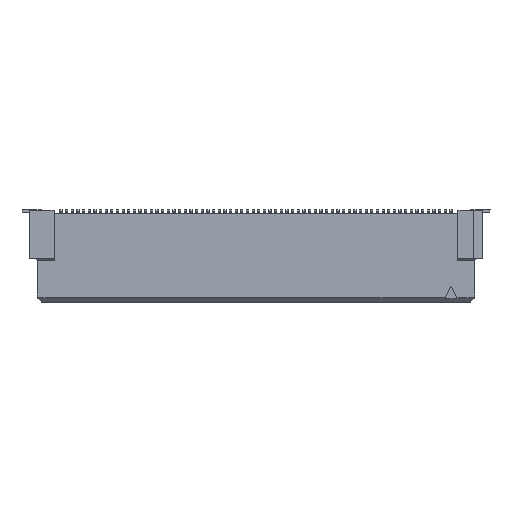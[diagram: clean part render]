
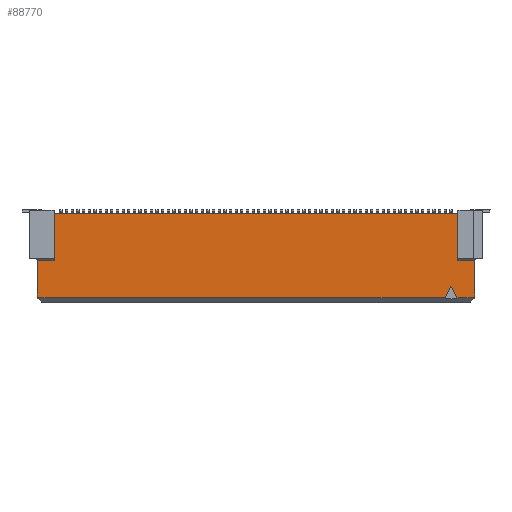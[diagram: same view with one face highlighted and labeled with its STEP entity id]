
A CAD part, front view. The second image highlights one B-rep face of the part: STEP entity #88770.
In plain terms, the highlighted planar face has unit normal (0, -1, 0).
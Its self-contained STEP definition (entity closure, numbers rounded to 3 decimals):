
#4080=CARTESIAN_POINT('',(23.522,1.44,
10.32));
#4090=VERTEX_POINT('',#4080);
#4880=CARTESIAN_POINT('',(23.522,1.44,
6.19));
#4890=VERTEX_POINT('',#4880);
#4920=CARTESIAN_POINT('',(23.522,1.44,
8.755));
#4930=DIRECTION('',(0.,0.,
1.));
#4940=VECTOR('',#4930,1.);
#4950=LINE('',#4920,#4940);
#4960=EDGE_CURVE('',#4890,#4090,#4950,.T.);
#8280=CARTESIAN_POINT('',(25.022,1.44,
6.19));
#8290=VERTEX_POINT('',#8280);
#8320=CARTESIAN_POINT('',(24.372,1.44,
6.19));
#8330=DIRECTION('',(-1.,0.,0.));
#8340=VECTOR('',#8330,1.);
#8350=LINE('',#8320,#8340);
#8360=EDGE_CURVE('',#8290,#4890,#8350,.T.);
#17390=CARTESIAN_POINT('',(25.022,1.44,
3.06));
#17400=VERTEX_POINT('',#17390);
#17430=CARTESIAN_POINT('',(25.022,1.44,
10.39));
#17440=DIRECTION('',(0.,0.,
1.));
#17450=VECTOR('',#17440,1.);
#17460=LINE('',#17430,#17450);
#17470=EDGE_CURVE('',#17400,#8290,#17460,.T.);
#24320=CARTESIAN_POINT('',(24.974,1.44,
2.91));
#24330=VERTEX_POINT('',#24320);
#24360=CARTESIAN_POINT('',(27.371,1.44,
10.39));
#24370=DIRECTION('',(-0.305,0.,
-0.952));
#24380=VECTOR('',#24370,1.);
#24390=LINE('',#24360,#24380);
#24400=EDGE_CURVE('',#17400,#24330,#24390,.T.);
#26620=CARTESIAN_POINT('',(22.912,1.44,
3.91));
#26630=VERTEX_POINT('',#26620);
#26660=CARTESIAN_POINT('',(20.49,1.44,
8.755));
#26670=DIRECTION('',(-0.447,0.,
0.894));
#26680=VECTOR('',#26670,1.);
#26690=LINE('',#26660,#26680);
#26700=CARTESIAN_POINT('',(23.412,1.44,
2.91));
#26710=VERTEX_POINT('',#26700);
#26720=EDGE_CURVE('',#26710,#26630,#26690,.T.);
#87190=CARTESIAN_POINT('',(22.412,1.44,
2.91));
#87200=VERTEX_POINT('',#87190);
#87230=CARTESIAN_POINT('',(25.335,1.44,
8.755));
#87240=DIRECTION('',(-0.447,0.,
-0.894));
#87250=VECTOR('',#87240,1.);
#87260=LINE('',#87230,#87250);
#87270=EDGE_CURVE('',#26630,#87200,#87260,.T.);
#87320=CARTESIAN_POINT('',(2.172,1.44,
2.91));
#87330=DIRECTION('',(0.,1.,
0.));
#87340=DIRECTION('',(0.,0.,
1.));
#87350=AXIS2_PLACEMENT_3D('',#87320,#87330,#87340);
#87360=PLANE('',#87350);
#87370=CARTESIAN_POINT('',(-8.848,1.44,
2.91));
#87380=DIRECTION('',(1.,0.,0.));
#87390=VECTOR('',#87380,1.);
#87400=LINE('',#87370,#87390);
#87410=CARTESIAN_POINT('',(-12.348,1.44,
2.91));
#87420=VERTEX_POINT('',#87410);
#87430=CARTESIAN_POINT('',(-2.338,1.44,
2.91));
#87440=VERTEX_POINT('',#87430);
#87450=EDGE_CURVE('',#87420,#87440,#87400,.T.);
#87460=ORIENTED_EDGE('',*,*,#87450,.T.);
#87470=CARTESIAN_POINT('',(-5.542,1.44,
2.91));
#87480=DIRECTION('',(1.,0.,0.));
#87490=VECTOR('',#87480,1.);
#87500=LINE('',#87470,#87490);
#87510=CARTESIAN_POINT('',(-13.649,1.44,
2.91));
#87520=VERTEX_POINT('',#87510);
#87530=EDGE_CURVE('',#87520,#87420,#87500,.T.);
#87540=ORIENTED_EDGE('',*,*,#87530,.T.);
#87550=CARTESIAN_POINT('',(-16.046,1.44,
10.39));
#87560=DIRECTION('',(0.305,0.,
-0.952));
#87570=VECTOR('',#87560,1.);
#87580=LINE('',#87550,#87570);
#87590=CARTESIAN_POINT('',(-13.698,1.44,
3.06));
#87600=VERTEX_POINT('',#87590);
#87610=EDGE_CURVE('',#87600,#87520,#87580,.T.);
#87620=ORIENTED_EDGE('',*,*,#87610,.T.);
#87630=CARTESIAN_POINT('',(-13.698,1.44,
10.39));
#87640=DIRECTION('',(0.,0.,
1.));
#87650=VECTOR('',#87640,1.);
#87660=LINE('',#87630,#87650);
#87670=CARTESIAN_POINT('',(-13.698,1.44,
6.19));
#87680=VERTEX_POINT('',#87670);
#87690=EDGE_CURVE('',#87600,#87680,#87660,.T.);
#87700=ORIENTED_EDGE('',*,*,#87690,.F.);
#87710=CARTESIAN_POINT('',(-13.048,1.44,
6.19));
#87720=DIRECTION('',(1.,0.,0.));
#87730=VECTOR('',#87720,1.);
#87740=LINE('',#87710,#87730);
#87750=CARTESIAN_POINT('',(-12.198,1.44,
6.19));
#87760=VERTEX_POINT('',#87750);
#87770=EDGE_CURVE('',#87680,#87760,#87740,.T.);
#87780=ORIENTED_EDGE('',*,*,#87770,.F.);
#87790=CARTESIAN_POINT('',(-12.198,1.44,
8.755));
#87800=DIRECTION('',(0.,0.,
1.));
#87810=VECTOR('',#87800,1.);
#87820=LINE('',#87790,#87810);
#87830=CARTESIAN_POINT('',(-12.198,1.44,
10.32));
#87840=VERTEX_POINT('',#87830);
#87850=EDGE_CURVE('',#87760,#87840,#87820,.T.);
#87860=ORIENTED_EDGE('',*,*,#87850,.F.);
#87870=CARTESIAN_POINT('',(-12.348,1.44,
10.32));
#87880=DIRECTION('',(1.,0.,0.));
#87890=VECTOR('',#87880,1.);
#87900=LINE('',#87870,#87890);
#87910=CARTESIAN_POINT('',(-11.838,1.44,
10.32));
#87920=VERTEX_POINT('',#87910);
#87930=EDGE_CURVE('',#87840,#87920,#87900,.T.);
#87940=ORIENTED_EDGE('',*,*,#87930,.F.);
#87950=CARTESIAN_POINT('',(-30.088,1.44,
10.32));
#87960=DIRECTION('',(1.,0.,0.));
#87970=VECTOR('',#87960,1.);
#87980=LINE('',#87950,#87970);
#87990=CARTESIAN_POINT('',(-8.338,1.44,
10.32));
#88000=VERTEX_POINT('',#87990);
#88010=EDGE_CURVE('',#87920,#88000,#87980,.T.);
#88020=ORIENTED_EDGE('',*,*,#88010,.F.);
#88030=CARTESIAN_POINT('',(-24.,1.44,
10.32));
#88040=DIRECTION('',(1.,0.,0.));
#88050=VECTOR('',#88040,1.);
#88060=LINE('',#88030,#88050);
#88070=CARTESIAN_POINT('',(-2.338,1.44,
10.32));
#88080=VERTEX_POINT('',#88070);
#88090=EDGE_CURVE('',#88000,#88080,#88060,.T.);
#88100=ORIENTED_EDGE('',*,*,#88090,.F.);
#88110=CARTESIAN_POINT('',(-39.,1.44,
10.32));
#88120=DIRECTION('',(1.,0.,0.));
#88130=VECTOR('',#88120,1.);
#88140=LINE('',#88110,#88130);
#88150=CARTESIAN_POINT('',(13.162,1.44,
10.32));
#88160=VERTEX_POINT('',#88150);
#88170=EDGE_CURVE('',#88080,#88160,#88140,.T.);
#88180=ORIENTED_EDGE('',*,*,#88170,.F.);
#88190=CARTESIAN_POINT('',(-9.,1.44,
10.32));
#88200=DIRECTION('',(1.,0.,0.));
#88210=VECTOR('',#88200,1.);
#88220=LINE('',#88190,#88210);
#88230=CARTESIAN_POINT('',(19.162,1.44,
10.32));
#88240=VERTEX_POINT('',#88230);
#88250=EDGE_CURVE('',#88160,#88240,#88220,.T.);
#88260=ORIENTED_EDGE('',*,*,#88250,.F.);
#88270=CARTESIAN_POINT('',(-2.588,1.44,
10.32));
#88280=DIRECTION('',(1.,0.,0.));
#88290=VECTOR('',#88280,1.);
#88300=LINE('',#88270,#88290);
#88310=CARTESIAN_POINT('',(23.162,1.44,
10.32));
#88320=VERTEX_POINT('',#88310);
#88330=EDGE_CURVE('',#88240,#88320,#88300,.T.);
#88340=ORIENTED_EDGE('',*,*,#88330,.F.);
#88350=CARTESIAN_POINT('',(23.672,1.44,
10.32));
#88360=DIRECTION('',(-1.,0.,0.));
#88370=VECTOR('',#88360,1.);
#88380=LINE('',#88350,#88370);
#88390=EDGE_CURVE('',#4090,#88320,#88380,.T.);
#88400=ORIENTED_EDGE('',*,*,#88390,.T.);
#88410=ORIENTED_EDGE('',*,*,#4960,.T.);
#88420=ORIENTED_EDGE('',*,*,#8360,.T.);
#88430=ORIENTED_EDGE('',*,*,#17470,.T.);
#88440=ORIENTED_EDGE('',*,*,#24400,.F.);
#88450=CARTESIAN_POINT('',(16.867,1.44,
2.91));
#88460=DIRECTION('',(-1.,0.,0.));
#88470=VECTOR('',#88460,1.);
#88480=LINE('',#88450,#88470);
#88490=CARTESIAN_POINT('',(23.672,1.44,
2.91));
#88500=VERTEX_POINT('',#88490);
#88510=EDGE_CURVE('',#24330,#88500,#88480,.T.);
#88520=ORIENTED_EDGE('',*,*,#88510,.F.);
#88530=CARTESIAN_POINT('',(-2.348,1.44,
2.91));
#88540=DIRECTION('',(1.,0.,0.));
#88550=VECTOR('',#88540,1.);
#88560=LINE('',#88530,#88550);
#88570=EDGE_CURVE('',#26710,#88500,#88560,.T.);
#88580=ORIENTED_EDGE('',*,*,#88570,.T.);
#88590=ORIENTED_EDGE('',*,*,#26720,.F.);
#88600=ORIENTED_EDGE('',*,*,#87270,.F.);
#88610=CARTESIAN_POINT('',(6.152,1.44,
2.91));
#88620=DIRECTION('',(1.,0.,0.));
#88630=VECTOR('',#88620,1.);
#88640=LINE('',#88610,#88630);
#88650=CARTESIAN_POINT('',(13.162,1.44,
2.91));
#88660=VERTEX_POINT('',#88650);
#88670=EDGE_CURVE('',#88660,#87200,#88640,.T.);
#88680=ORIENTED_EDGE('',*,*,#88670,.T.);
#88690=CARTESIAN_POINT('',(-23.848,1.44,
2.91));
#88700=DIRECTION('',(1.,0.,0.));
#88710=VECTOR('',#88700,1.);
#88720=LINE('',#88690,#88710);
#88730=EDGE_CURVE('',#87440,#88660,#88720,.T.);
#88740=ORIENTED_EDGE('',*,*,#88730,.T.);
#88750=EDGE_LOOP('',(#88740,#88680,#88600,#88590,#88580,#88520,#88440,
#88430,#88420,#88410,#88400,#88340,#88260,#88180,#88100,#88020,#87940,
#87860,#87780,#87700,#87620,#87540,#87460));
#88760=FACE_OUTER_BOUND('',#88750,.T.);
#88770=ADVANCED_FACE('',(#88760),#87360,.F.);
